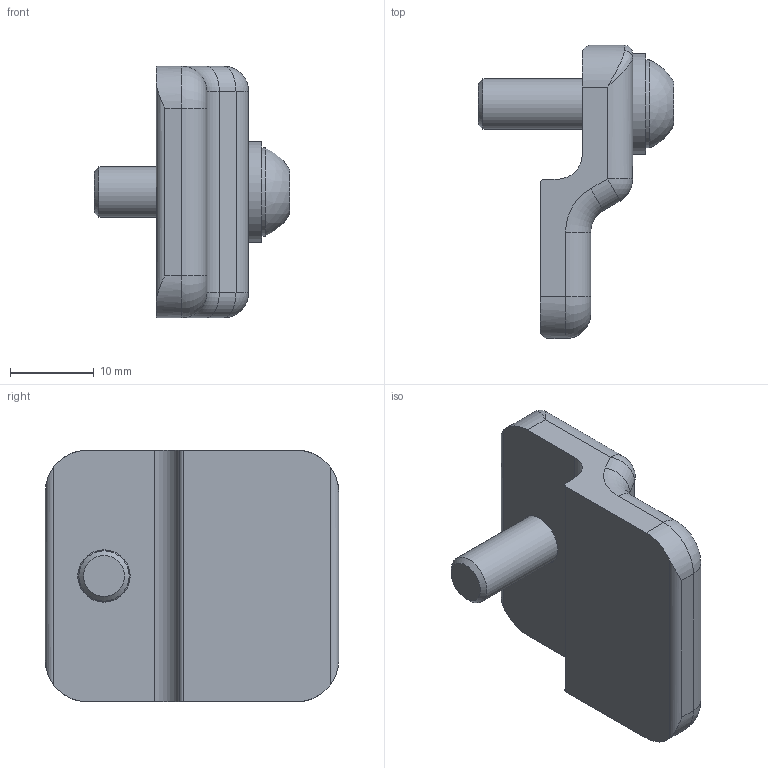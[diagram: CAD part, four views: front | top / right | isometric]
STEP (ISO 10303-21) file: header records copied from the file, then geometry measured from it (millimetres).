
FILE_DESCRIPTION (( 'STEP AP214' ), '1' );
FILE_NAME ('L19153 ens.step', '2024-12-03T16:24:34', ( '' ), ( '' ), 'SwSTEP 2.0', 'SolidWorks 2023', '' );
FILE_SCHEMA (( 'AUTOMOTIVE_DESIGN' ));
Length unit declared in the file: millimetre
Products named in the file (4): socket button head screw_APC_Vis BHC - M6 x 20 - 20N; plain washer 10669 type nl_APC_Rondelle plate - N - M6; L19153; L19153 ens
Assembly tree (3 placements, depth 2):
  L19153 ens
    L19153
    plain washer 10669 type nl_APC_Rondelle plate - N - M6
    socket button head screw_APC_Vis BHC - M6 x 20 - 20N
Bounding box: 23.3 x 35 x 30 mm (x, y, z)
Volume: 7183.4 mm3; surface area: 3768.9 mm2
Topology: 3 solids, 3 shells, 64 faces, 143 edges, 85 vertices
Faces by surface type: plane 27, cylinder 23, torus 7, sphere 3, bspline 2, cone 2
Full cylindrical faces by diameter (mm): 6 x1, 6.25 x1, 6.4 x1, 10.5 x1, 12 x1
Entity records: 1947 total; most frequent: CARTESIAN_POINT 438, DIRECTION 316, ORIENTED_EDGE 262, EDGE_CURVE 131, AXIS2_PLACEMENT_3D 125, VERTEX_POINT 83, EDGE_LOOP 78, FACE_OUTER_BOUND 71
